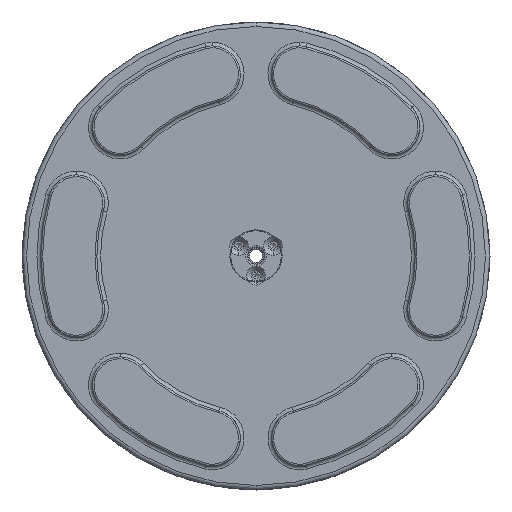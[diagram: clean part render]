
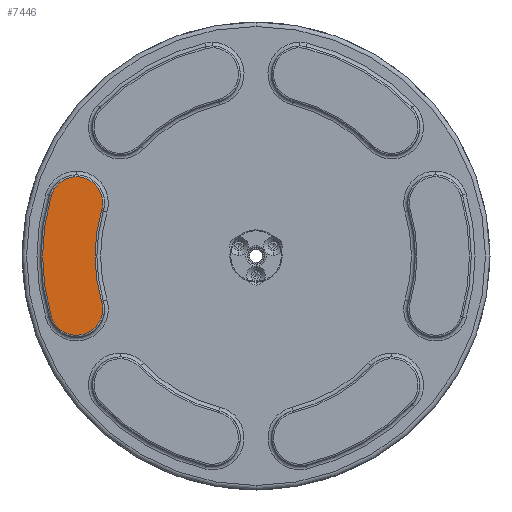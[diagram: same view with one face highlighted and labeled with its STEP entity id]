
A CAD part, front view. The second image highlights one B-rep face of the part: STEP entity #7446.
In plain terms, the highlighted planar face has unit normal (0, -1, 0).
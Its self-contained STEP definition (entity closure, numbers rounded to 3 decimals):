
#70 = CIRCLE ( 'NONE', #7380, 14. ) ;
#207 = CARTESIAN_POINT ( 'NONE',  ( -208.838, 15.931, 70.612 ) ) ;
#280 = CARTESIAN_POINT ( 'NONE',  ( -195.412, 15.931, 9.942 ) ) ;
#512 = EDGE_CURVE ( 'NONE', #1340, #2425, #70, .T. ) ;
#823 = VERTEX_POINT ( 'NONE', #4365 ) ;
#1155 = CARTESIAN_POINT ( 'NONE',  ( -181.986, 15.931, 62.674 ) ) ;
#1243 = DIRECTION ( 'NONE',  ( 0., 0., -1. ) ) ;
#1246 = EDGE_CURVE ( 'NONE', #2425, #4468, #1424, .T. ) ;
#1263 = DIRECTION ( 'NONE',  ( 0., 1., 0. ) ) ;
#1340 = VERTEX_POINT ( 'NONE', #6913 ) ;
#1390 = ORIENTED_EDGE ( 'NONE', *, *, #9898, .T. ) ;
#1422 = DIRECTION ( 'NONE',  ( 0., 0., -1. ) ) ;
#1424 = CIRCLE ( 'NONE', #1738, 86. ) ;
#1738 = AXIS2_PLACEMENT_3D ( 'NONE', #6730, #1263, #6776 ) ;
#2244 = EDGE_CURVE ( 'NONE', #823, #1340, #7620, .T. ) ;
#2334 = DIRECTION ( 'NONE',  ( 0., -1., 0. ) ) ;
#2425 = VERTEX_POINT ( 'NONE', #8369 ) ;
#2756 = DIRECTION ( 'NONE',  ( 0., -1., 0. ) ) ;
#2815 = ORIENTED_EDGE ( 'NONE', *, *, #512, .T. ) ;
#2847 = CARTESIAN_POINT ( 'NONE',  ( -195.412, 15.931, 66.643 ) ) ;
#2960 = DIRECTION ( 'NONE',  ( 0., -1., 0. ) ) ;
#3047 = ORIENTED_EDGE ( 'NONE', *, *, #2244, .T. ) ;
#3320 = ORIENTED_EDGE ( 'NONE', *, *, #6442, .T. ) ;
#3621 = EDGE_LOOP ( 'NONE', ( #3047, #2815, #7616, #1390, #3320 ) ) ;
#4365 = CARTESIAN_POINT ( 'NONE',  ( -208.838, 15.931, 5.973 ) ) ;
#4468 = VERTEX_POINT ( 'NONE', #1155 ) ;
#4727 = CIRCLE ( 'NONE', #7778, 114. ) ;
#4998 = CARTESIAN_POINT ( 'NONE',  ( -99.515, 15.931, 38.293 ) ) ;
#5093 = DIRECTION ( 'NONE',  ( 0., 0., -1. ) ) ;
#5143 = DIRECTION ( 'NONE',  ( 0., 0., -1. ) ) ;
#5340 = FACE_OUTER_BOUND ( 'NONE', #3621, .T. ) ;
#5358 = CIRCLE ( 'NONE', #7310, 14. ) ;
#5405 = AXIS2_PLACEMENT_3D ( 'NONE', #9260, #2334, #5437 ) ;
#5437 = DIRECTION ( 'NONE',  ( 0., 0., -1. ) ) ;
#6179 = PLANE ( 'NONE',  #5405 ) ;
#6442 = EDGE_CURVE ( 'NONE', #9739, #823, #4727, .T. ) ;
#6730 = CARTESIAN_POINT ( 'NONE',  ( -99.515, 15.931, 38.293 ) ) ;
#6740 = DIRECTION ( 'NONE',  ( 0., -1., 0. ) ) ;
#6750 = CARTESIAN_POINT ( 'NONE',  ( -195.412, 15.931, 9.942 ) ) ;
#6776 = DIRECTION ( 'NONE',  ( 0., 0., -1. ) ) ;
#6913 = CARTESIAN_POINT ( 'NONE',  ( -195.412, 15.931, -4.058 ) ) ;
#7310 = AXIS2_PLACEMENT_3D ( 'NONE', #2847, #6740, #1422 ) ;
#7380 = AXIS2_PLACEMENT_3D ( 'NONE', #6750, #2960, #5143 ) ;
#7446 = ADVANCED_FACE ( 'NONE', ( #5340 ), #6179, .T. ) ;
#7616 = ORIENTED_EDGE ( 'NONE', *, *, #1246, .T. ) ;
#7620 = CIRCLE ( 'NONE', #9736, 14. ) ;
#7778 = AXIS2_PLACEMENT_3D ( 'NONE', #4998, #2756, #5093 ) ;
#8176 = DIRECTION ( 'NONE',  ( 0., -1., 0. ) ) ;
#8369 = CARTESIAN_POINT ( 'NONE',  ( -181.986, 15.931, 13.911 ) ) ;
#9260 = CARTESIAN_POINT ( 'NONE',  ( -147.463, 15.931, 52.468 ) ) ;
#9736 = AXIS2_PLACEMENT_3D ( 'NONE', #280, #8176, #1243 ) ;
#9739 = VERTEX_POINT ( 'NONE', #207 ) ;
#9898 = EDGE_CURVE ( 'NONE', #4468, #9739, #5358, .T. ) ;
